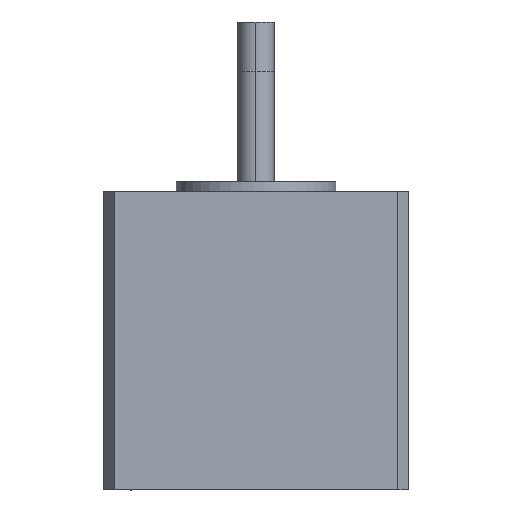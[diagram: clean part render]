
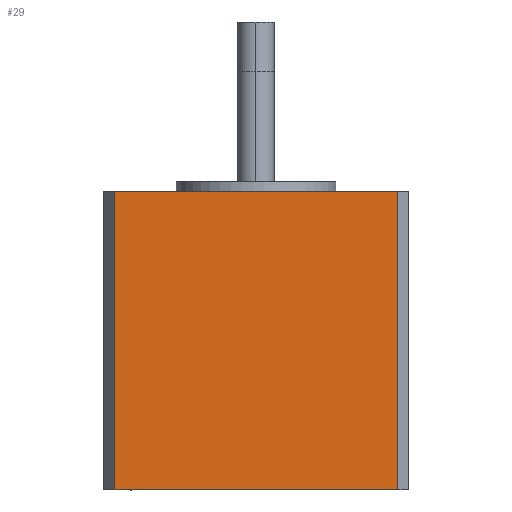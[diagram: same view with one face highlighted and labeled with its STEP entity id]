
A CAD part, front view. The second image highlights one B-rep face of the part: STEP entity #29.
In plain terms, the highlighted planar face has unit normal (0, -1, 0).
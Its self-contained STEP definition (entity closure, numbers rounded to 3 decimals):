
#29=ADVANCED_FACE('',(#55),#428,.T.);
#55=FACE_OUTER_BOUND('',#81,.T.);
#81=EDGE_LOOP('',(#129,#130,#131,#132));
#129=ORIENTED_EDGE('',*,*,#255,.T.);
#130=ORIENTED_EDGE('',*,*,#256,.T.);
#131=ORIENTED_EDGE('',*,*,#257,.F.);
#132=ORIENTED_EDGE('',*,*,#253,.F.);
#253=EDGE_CURVE('',#378,#379,#316,.T.);
#255=EDGE_CURVE('',#378,#380,#318,.T.);
#256=EDGE_CURVE('',#380,#381,#319,.T.);
#257=EDGE_CURVE('',#379,#381,#320,.T.);
#316=B_SPLINE_CURVE_WITH_KNOTS('',1,(#707,#708),.UNSPECIFIED.,.F.,.F.,(2,
2),(0.,41.),.UNSPECIFIED.);
#318=B_SPLINE_CURVE_WITH_KNOTS('',1,(#711,#712),.UNSPECIFIED.,.F.,.F.,(2,
2),(81.998,120.991),.UNSPECIFIED.);
#319=B_SPLINE_CURVE_WITH_KNOTS('',1,(#713,#714),.UNSPECIFIED.,.F.,.F.,(2,
2),(0.,41.),.UNSPECIFIED.);
#320=B_SPLINE_CURVE_WITH_KNOTS('',1,(#715,#716),.UNSPECIFIED.,.F.,.F.,(2,
2),(81.998,120.991),.UNSPECIFIED.);
#378=VERTEX_POINT('',#645);
#379=VERTEX_POINT('',#646);
#380=VERTEX_POINT('',#647);
#381=VERTEX_POINT('',#648);
#428=PLANE('',#460);
#460=AXIS2_PLACEMENT_3D('',#490,#475,$);
#475=DIRECTION('',(0.,-1.,0.));
#490=CARTESIAN_POINT('',(19.497,154.322,56.001));
#645=CARTESIAN_POINT('',(19.497,154.322,56.001));
#646=CARTESIAN_POINT('',(19.497,154.322,15.001));
#647=CARTESIAN_POINT('',(-19.497,154.322,56.001));
#648=CARTESIAN_POINT('',(-19.497,154.322,15.001));
#707=CARTESIAN_POINT('',(19.497,154.322,56.001));
#708=CARTESIAN_POINT('',(19.497,154.322,15.001));
#711=CARTESIAN_POINT('',(19.497,154.322,56.001));
#712=CARTESIAN_POINT('',(-19.497,154.322,56.001));
#713=CARTESIAN_POINT('',(-19.497,154.322,56.001));
#714=CARTESIAN_POINT('',(-19.497,154.322,15.001));
#715=CARTESIAN_POINT('',(19.497,154.322,15.001));
#716=CARTESIAN_POINT('',(-19.497,154.322,15.001));
